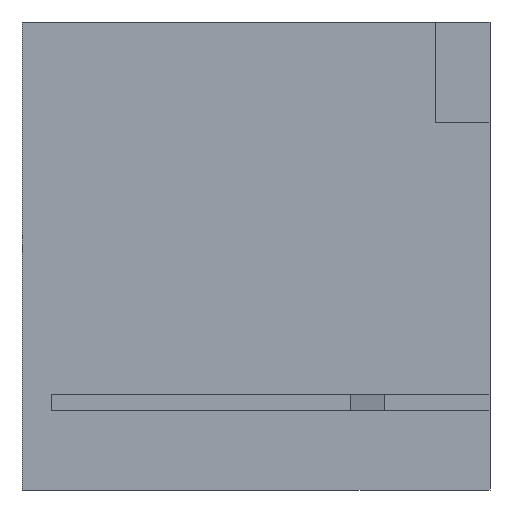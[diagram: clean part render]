
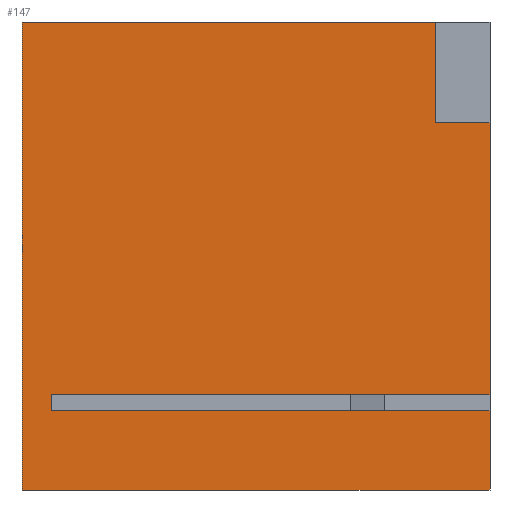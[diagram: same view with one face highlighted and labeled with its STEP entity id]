
A CAD part, front view. The second image highlights one B-rep face of the part: STEP entity #147.
In plain terms, the highlighted planar face has unit normal (0, -1, 0).
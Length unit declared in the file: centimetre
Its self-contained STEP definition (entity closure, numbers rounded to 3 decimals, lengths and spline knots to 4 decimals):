
#4 = CARTESIAN_POINT ( 'NONE',  ( 1000., 0., 168.8159 ) ) ;
#13 = LINE ( 'NONE', #900, #771 ) ;
#91 = CARTESIAN_POINT ( 'NONE',  ( 0., 0., 1000. ) ) ;
#95 = DIRECTION ( 'NONE',  ( 0., 1., 0. ) ) ;
#98 = CARTESIAN_POINT ( 'NONE',  ( 63.8488, 0., 168.8159 ) ) ;
#103 = VERTEX_POINT ( 'NONE', #1338 ) ;
#147 = ADVANCED_FACE ( 'NONE', ( #875 ), #561, .F. ) ;
#288 = EDGE_CURVE ( 'NONE', #967, #578, #1524, .T. ) ;
#294 = LINE ( 'NONE', #876, #1500 ) ;
#300 = VECTOR ( 'NONE', #302, 100. ) ;
#302 = DIRECTION ( 'NONE',  ( 1., 0., 0. ) ) ;
#303 = CARTESIAN_POINT ( 'NONE',  ( 63.8488, 0., 203.3141 ) ) ;
#306 = CARTESIAN_POINT ( 'NONE',  ( 0., 0., 0. ) ) ;
#309 = CARTESIAN_POINT ( 'NONE',  ( 0., 0., 0. ) ) ;
#344 = VERTEX_POINT ( 'NONE', #4 ) ;
#352 = VECTOR ( 'NONE', #1540, 100. ) ;
#366 = VERTEX_POINT ( 'NONE', #947 ) ;
#406 = EDGE_CURVE ( 'NONE', #1166, #366, #983, .T. ) ;
#481 = VECTOR ( 'NONE', #1483, 100. ) ;
#482 = LINE ( 'NONE', #924, #745 ) ;
#483 = VECTOR ( 'NONE', #1747, 100. ) ;
#489 = CARTESIAN_POINT ( 'NONE',  ( 882.6184, 0., 784.3132 ) ) ;
#495 = CARTESIAN_POINT ( 'NONE',  ( 882.6184, 0., 1000. ) ) ;
#503 = EDGE_CURVE ( 'NONE', #1354, #344, #1430, .T. ) ;
#507 = ORIENTED_EDGE ( 'NONE', *, *, #288, .F. ) ;
#533 = CARTESIAN_POINT ( 'NONE',  ( 882.6184, 0., 784.3132 ) ) ;
#561 = PLANE ( 'NONE',  #1505 ) ;
#578 = VERTEX_POINT ( 'NONE', #1961 ) ;
#658 = EDGE_CURVE ( 'NONE', #1434, #103, #1665, .T. ) ;
#672 = DIRECTION ( 'NONE',  ( 1., 0., 0. ) ) ;
#698 = DIRECTION ( 'NONE',  ( 0., 0., 1. ) ) ;
#736 = DIRECTION ( 'NONE',  ( 0., 0., -1. ) ) ;
#745 = VECTOR ( 'NONE', #1545, 100. ) ;
#771 = VECTOR ( 'NONE', #736, 100. ) ;
#791 = EDGE_CURVE ( 'NONE', #1008, #1235, #482, .T. ) ;
#801 = VECTOR ( 'NONE', #1368, 100. ) ;
#825 = ORIENTED_EDGE ( 'NONE', *, *, #1491, .F. ) ;
#853 = ORIENTED_EDGE ( 'NONE', *, *, #1324, .F. ) ;
#875 = FACE_OUTER_BOUND ( 'NONE', #1320, .T. ) ;
#876 = CARTESIAN_POINT ( 'NONE',  ( 63.8488, 0., 168.8159 ) ) ;
#900 = CARTESIAN_POINT ( 'NONE',  ( 0., 0., 1000. ) ) ;
#920 = CARTESIAN_POINT ( 'NONE',  ( 1000., 0., 1000. ) ) ;
#924 = CARTESIAN_POINT ( 'NONE',  ( 0., 0., 1000. ) ) ;
#947 = CARTESIAN_POINT ( 'NONE',  ( 1000., 0., 203.3141 ) ) ;
#967 = VERTEX_POINT ( 'NONE', #1591 ) ;
#983 = LINE ( 'NONE', #1303, #1193 ) ;
#1000 = ORIENTED_EDGE ( 'NONE', *, *, #791, .F. ) ;
#1008 = VERTEX_POINT ( 'NONE', #91 ) ;
#1028 = VECTOR ( 'NONE', #1733, 100. ) ;
#1042 = CARTESIAN_POINT ( 'NONE',  ( 1000., 0., 1000. ) ) ;
#1069 = LINE ( 'NONE', #920, #352 ) ;
#1077 = ORIENTED_EDGE ( 'NONE', *, *, #1901, .F. ) ;
#1121 = EDGE_CURVE ( 'NONE', #1008, #1434, #13, .T. ) ;
#1166 = VERTEX_POINT ( 'NONE', #303 ) ;
#1169 = CARTESIAN_POINT ( 'NONE',  ( 0., 0., 1000. ) ) ;
#1193 = VECTOR ( 'NONE', #672, 100. ) ;
#1235 = VERTEX_POINT ( 'NONE', #495 ) ;
#1303 = CARTESIAN_POINT ( 'NONE',  ( 63.8488, 0., 203.3141 ) ) ;
#1320 = EDGE_LOOP ( 'NONE', ( #1077, #1562, #1595, #1785, #825, #507, #853, #1000, #1614, #1380 ) ) ;
#1324 = EDGE_CURVE ( 'NONE', #1235, #967, #1745, .T. ) ;
#1332 = LINE ( 'NONE', #1042, #481 ) ;
#1338 = CARTESIAN_POINT ( 'NONE',  ( 1000., 0., 0. ) ) ;
#1354 = VERTEX_POINT ( 'NONE', #1601 ) ;
#1368 = DIRECTION ( 'NONE',  ( 1., 0., 0. ) ) ;
#1380 = ORIENTED_EDGE ( 'NONE', *, *, #658, .T. ) ;
#1430 = LINE ( 'NONE', #98, #483 ) ;
#1434 = VERTEX_POINT ( 'NONE', #306 ) ;
#1483 = DIRECTION ( 'NONE',  ( 0., 0., -1. ) ) ;
#1491 = EDGE_CURVE ( 'NONE', #578, #366, #1069, .T. ) ;
#1500 = VECTOR ( 'NONE', #1778, 100. ) ;
#1505 = AXIS2_PLACEMENT_3D ( 'NONE', #1169, #95, #698 ) ;
#1524 = LINE ( 'NONE', #489, #801 ) ;
#1540 = DIRECTION ( 'NONE',  ( 0., 0., -1. ) ) ;
#1545 = DIRECTION ( 'NONE',  ( 1., 0., 0. ) ) ;
#1562 = ORIENTED_EDGE ( 'NONE', *, *, #503, .F. ) ;
#1591 = CARTESIAN_POINT ( 'NONE',  ( 882.6184, 0., 784.3132 ) ) ;
#1595 = ORIENTED_EDGE ( 'NONE', *, *, #1743, .F. ) ;
#1601 = CARTESIAN_POINT ( 'NONE',  ( 63.8488, 0., 168.8159 ) ) ;
#1614 = ORIENTED_EDGE ( 'NONE', *, *, #1121, .T. ) ;
#1665 = LINE ( 'NONE', #309, #300 ) ;
#1733 = DIRECTION ( 'NONE',  ( 0., 0., -1. ) ) ;
#1743 = EDGE_CURVE ( 'NONE', #1166, #1354, #294, .T. ) ;
#1745 = LINE ( 'NONE', #533, #1028 ) ;
#1747 = DIRECTION ( 'NONE',  ( 1., 0., 0. ) ) ;
#1778 = DIRECTION ( 'NONE',  ( 0., 0., -1. ) ) ;
#1785 = ORIENTED_EDGE ( 'NONE', *, *, #406, .T. ) ;
#1901 = EDGE_CURVE ( 'NONE', #344, #103, #1332, .T. ) ;
#1961 = CARTESIAN_POINT ( 'NONE',  ( 1000., 0., 784.3132 ) ) ;
